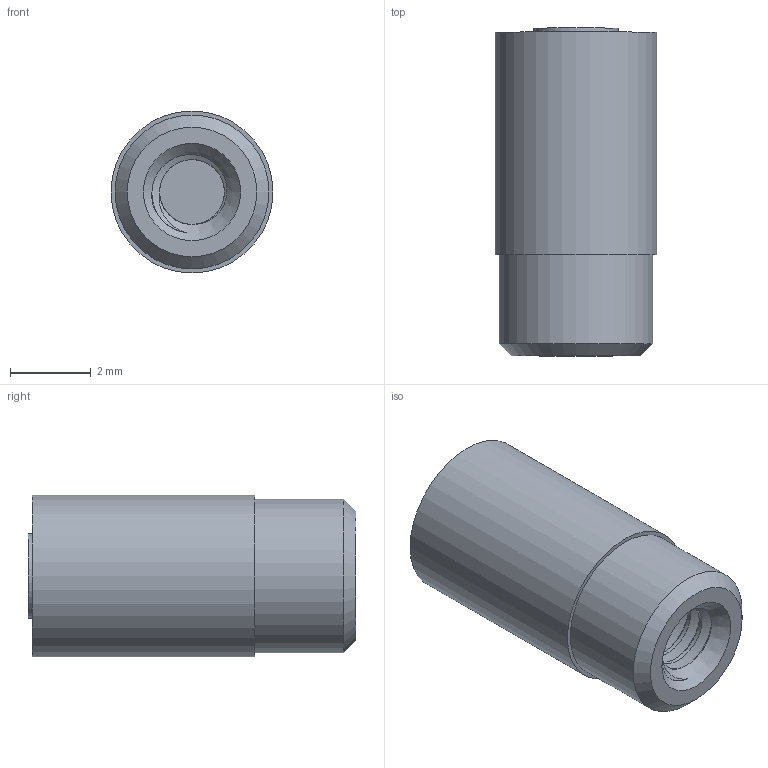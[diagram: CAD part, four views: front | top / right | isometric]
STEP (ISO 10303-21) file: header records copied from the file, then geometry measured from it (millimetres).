
FILE_DESCRIPTION (( 'STEP AP214' ), '1' );
FILE_NAME ('DKH-4.STEP', '2018-10-09T18:01:29', ( '' ), ( '' ), 'SwSTEP 2.0', 'SolidWorks 2017', '' );
FILE_SCHEMA (( 'AUTOMOTIVE_DESIGN' ));
Length unit declared in the file: millimetre
Products named in the file (1): DKH-4
Bounding box: 4 x 8.1 x 4 mm (x, y, z)
Volume: 90.7 mm3; surface area: 143.6 mm2
Topology: 1 solids, 1 shells, 86 faces, 222 edges, 148 vertices
Faces by surface type: plane 44, cylinder 37, bspline 3, cone 2
Full cylindrical faces by diameter (mm): 1.6 x4, 2.1 x1, 3.8 x1, 4 x1
Entity records: 3706 total; most frequent: CARTESIAN_POINT 1793, ORIENTED_EDGE 402, DIRECTION 290, EDGE_CURVE 201, VERTEX_POINT 137, VECTOR 110, LINE 110, EDGE_LOOP 98
